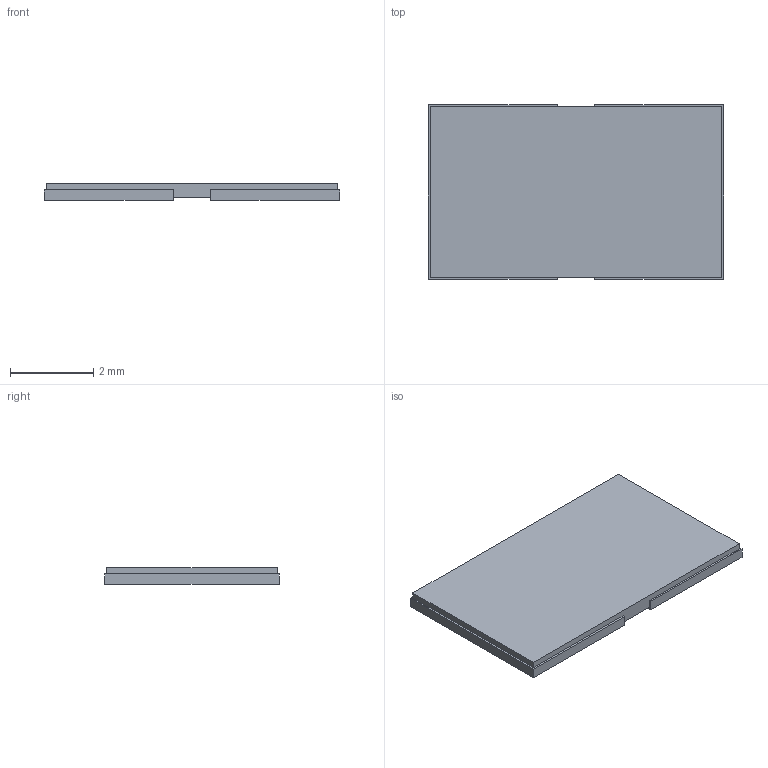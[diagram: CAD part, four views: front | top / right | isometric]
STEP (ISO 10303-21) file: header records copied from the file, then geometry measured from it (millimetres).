
FILE_DESCRIPTION(/* description */ (''),/* implementation_level */ '2;1');
FILE_NAME(/* name */ 'GMR320.step',/* time_stamp */ '2024-11-06T22:52:58+09:00',/* author */ (''),/* organization */ (''),/* preprocessor_version */ 'ST-DEVELOPER v20',/* originating_system */ 'Autodesk Translation Framework v13.20.0.188',/* authorisation */ '');
FILE_SCHEMA (('AUTOMOTIVE_DESIGN { 1 0 10303 214 3 1 1 }'));
Length unit declared in the file: millimetre
Products named in the file (1): GMR320外形のみ
Bounding box: 7.1 x 4.2 x 0.4 mm (x, y, z)
Volume: 11.5 mm3; surface area: 68.9 mm2
Topology: 1 solids, 1 shells, 18 faces, 48 edges, 32 vertices
Faces by surface type: plane 18
Entity records: 592 total; most frequent: CARTESIAN_POINT 99, ORIENTED_EDGE 96, DIRECTION 86, LINE 48, VECTOR 48, EDGE_CURVE 48, VERTEX_POINT 32, AXIS2_PLACEMENT_3D 19
